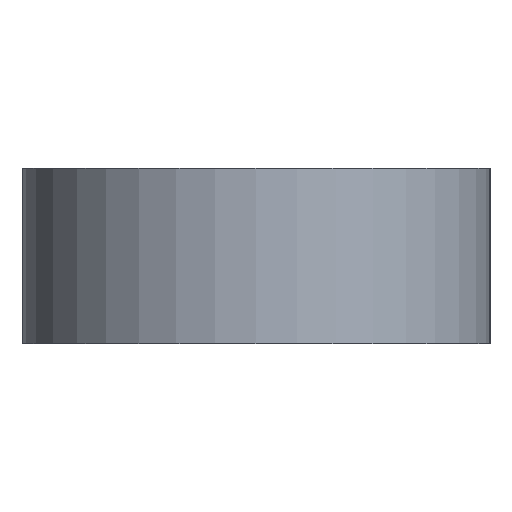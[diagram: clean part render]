
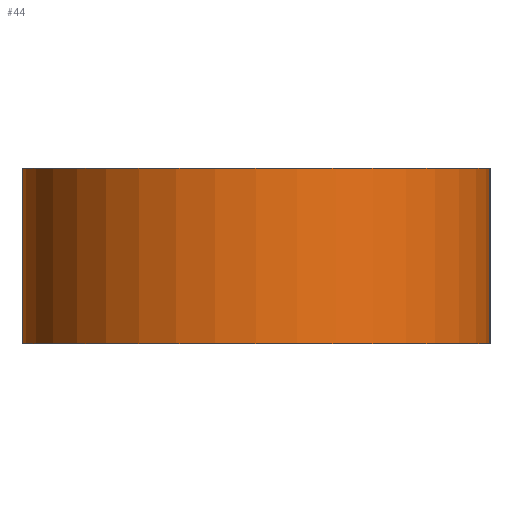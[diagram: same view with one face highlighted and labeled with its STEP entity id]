
A CAD part, left-side view. The second image highlights one B-rep face of the part: STEP entity #44.
In plain terms, the highlighted cylindrical face has radius 6 mm (diameter 12 mm), a partial arc.
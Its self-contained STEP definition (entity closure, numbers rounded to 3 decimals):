
#44 = ADVANCED_FACE( '', ( #87 ), #88, .T. );
#87 = FACE_OUTER_BOUND( '', #124, .T. );
#88 = CYLINDRICAL_SURFACE( '', #125, 6. );
#124 = EDGE_LOOP( '', ( #179, #180, #181, #182 ) );
#125 = AXIS2_PLACEMENT_3D( '', #183, #184, #185 );
#179 = ORIENTED_EDGE( '', *, *, #218, .F. );
#180 = ORIENTED_EDGE( '', *, *, #212, .F. );
#181 = ORIENTED_EDGE( '', *, *, #206, .T. );
#182 = ORIENTED_EDGE( '', *, *, #201, .T. );
#183 = CARTESIAN_POINT( '', ( -16., 6., 4.5 ) );
#184 = DIRECTION( '', ( 0., 0., 1. ) );
#185 = DIRECTION( '', ( -1., 0., 0. ) );
#201 = EDGE_CURVE( '', #229, #226, #230, .T. );
#206 = EDGE_CURVE( '', #237, #229, #238, .T. );
#212 = EDGE_CURVE( '', #237, #244, #247, .T. );
#218 = EDGE_CURVE( '', #244, #226, #254, .T. );
#226 = VERTEX_POINT( '', #262 );
#229 = VERTEX_POINT( '', #266 );
#230 = LINE( '', #267, #268 );
#237 = VERTEX_POINT( '', #277 );
#238 = CIRCLE( '', #278, 6. );
#244 = VERTEX_POINT( '', #285 );
#247 = LINE( '', #290, #291 );
#254 = CIRCLE( '', #298, 6. );
#262 = CARTESIAN_POINT( '', ( -16., 12., 0. ) );
#266 = CARTESIAN_POINT( '', ( -16., 12., 4.5 ) );
#267 = CARTESIAN_POINT( '', ( -16., 12., 4.5 ) );
#268 = VECTOR( '', #307, 1000. );
#277 = CARTESIAN_POINT( '', ( -16., 0., 4.5 ) );
#278 = AXIS2_PLACEMENT_3D( '', #313, #314, #315 );
#285 = CARTESIAN_POINT( '', ( -16., 0., 0. ) );
#290 = CARTESIAN_POINT( '', ( -16., 0., 4.5 ) );
#291 = VECTOR( '', #322, 1000. );
#298 = AXIS2_PLACEMENT_3D( '', #329, #330, #331 );
#307 = DIRECTION( '', ( 0., 0., -1. ) );
#313 = CARTESIAN_POINT( '', ( -16., 6., 4.5 ) );
#314 = DIRECTION( '', ( 0., 0., -1. ) );
#315 = DIRECTION( '', ( 1., 0., 0. ) );
#322 = DIRECTION( '', ( 0., 0., -1. ) );
#329 = CARTESIAN_POINT( '', ( -16., 6., 0. ) );
#330 = DIRECTION( '', ( 0., 0., -1. ) );
#331 = DIRECTION( '', ( 1., 0., 0. ) );
